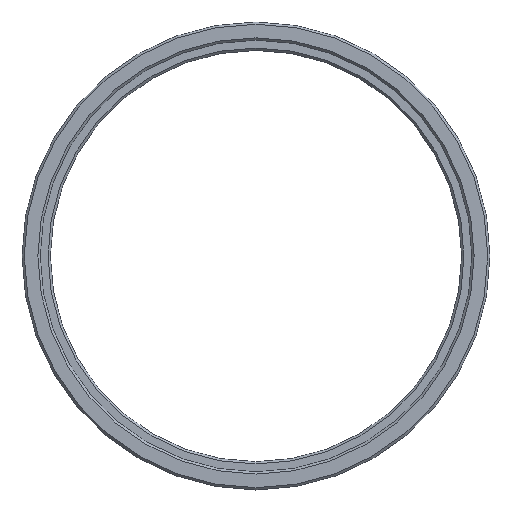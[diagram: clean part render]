
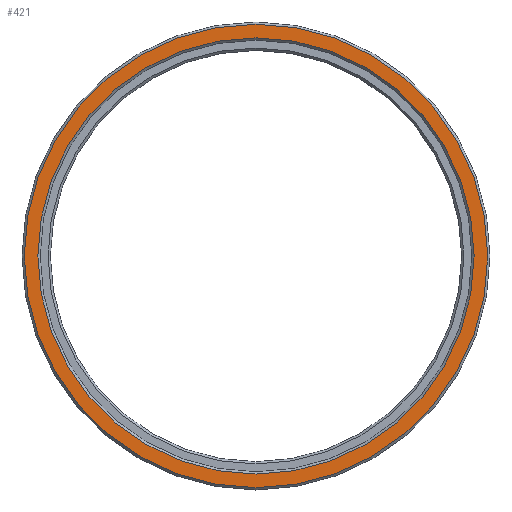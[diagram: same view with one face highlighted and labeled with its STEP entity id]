
A CAD part, top view. The second image highlights one B-rep face of the part: STEP entity #421.
In plain terms, the highlighted planar face has unit normal (0, 0, 1).
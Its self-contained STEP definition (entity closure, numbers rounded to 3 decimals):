
#14 = DIRECTION ( 'NONE',  ( -1., 0., 0. ) ) ;
#26 = CIRCLE ( 'NONE', #121, 30.7 ) ;
#27 = PLANE ( 'NONE',  #399 ) ;
#55 = ORIENTED_EDGE ( 'NONE', *, *, #426, .T. ) ;
#90 = FACE_OUTER_BOUND ( 'NONE', #189, .T. ) ;
#121 = AXIS2_PLACEMENT_3D ( 'NONE', #332, #197, #159 ) ;
#135 = CARTESIAN_POINT ( 'NONE',  ( -30.7, 0., 4. ) ) ;
#159 = DIRECTION ( 'NONE',  ( -1., 0., 0. ) ) ;
#189 = EDGE_LOOP ( 'NONE', ( #55 ) ) ;
#197 = DIRECTION ( 'NONE',  ( 0., 0., 1. ) ) ;
#200 = CARTESIAN_POINT ( 'NONE',  ( -28.9, 0., 4. ) ) ;
#209 = EDGE_LOOP ( 'NONE', ( #297 ) ) ;
#217 = CARTESIAN_POINT ( 'NONE',  ( 0., 0., 4. ) ) ;
#225 = VERTEX_POINT ( 'NONE', #135 ) ;
#227 = CARTESIAN_POINT ( 'NONE',  ( 0., 31., 4. ) ) ;
#264 = VERTEX_POINT ( 'NONE', #200 ) ;
#297 = ORIENTED_EDGE ( 'NONE', *, *, #354, .T. ) ;
#305 = CIRCLE ( 'NONE', #352, 28.9 ) ;
#332 = CARTESIAN_POINT ( 'NONE',  ( 0., 0., 4. ) ) ;
#342 = FACE_BOUND ( 'NONE', #209, .T. ) ;
#352 = AXIS2_PLACEMENT_3D ( 'NONE', #217, #431, #14 ) ;
#354 = EDGE_CURVE ( 'NONE', #264, #264, #305, .T. ) ;
#368 = DIRECTION ( 'NONE',  ( -1., 0., 0. ) ) ;
#399 = AXIS2_PLACEMENT_3D ( 'NONE', #227, #408, #368 ) ;
#408 = DIRECTION ( 'NONE',  ( 0., 0., -1. ) ) ;
#421 = ADVANCED_FACE ( 'NONE', ( #90, #342 ), #27, .F. ) ;
#426 = EDGE_CURVE ( 'NONE', #225, #225, #26, .T. ) ;
#431 = DIRECTION ( 'NONE',  ( 0., 0., -1. ) ) ;
